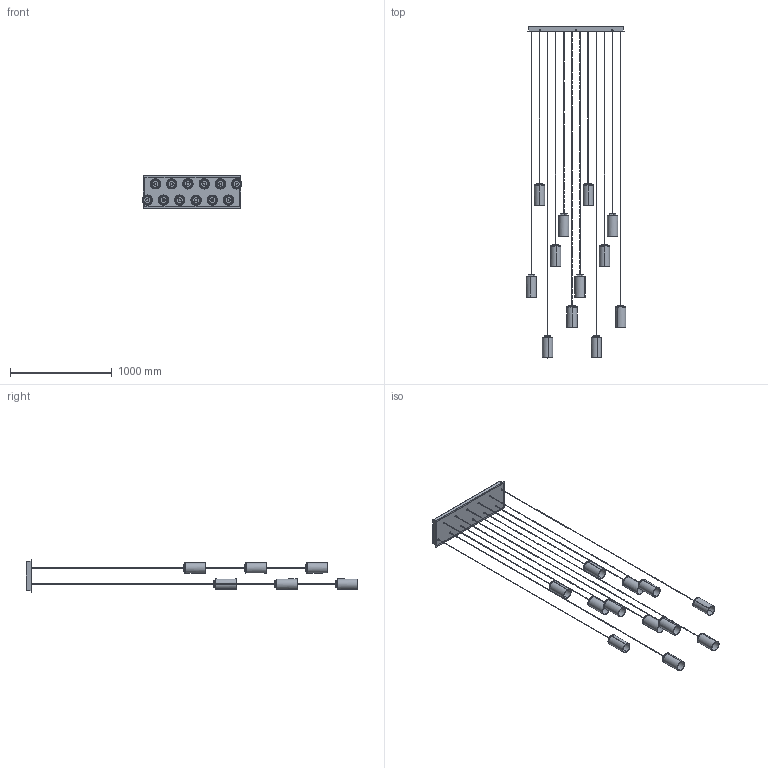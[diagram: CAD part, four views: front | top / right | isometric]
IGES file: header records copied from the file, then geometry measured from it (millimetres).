
Start section: SolidWorks IGES file using NURBS representation for surfaces
Global section: file name: C:\Users\aitor.torredeflot\Desktop\Cascada 12\3D WEB\Cascada 12\cascada 12.IGS; native system: SolidWorks 2016; preprocessor: SolidWorks 2016; author: aitor.torredeflot; date: 170712.174252; units: millimetre
Bounding box: 980.97 x 3265.5 x 320 mm (x, y, z)
Surface area: 3558825.6 mm2 (no closed solid volume)
Topology: 0 solids, 0 shells, 3742 faces, 30066 edges, 30066 vertices
Faces by surface type: bspline 3742
